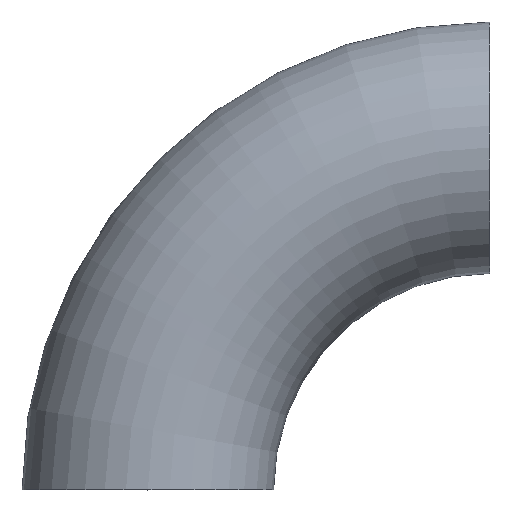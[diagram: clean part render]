
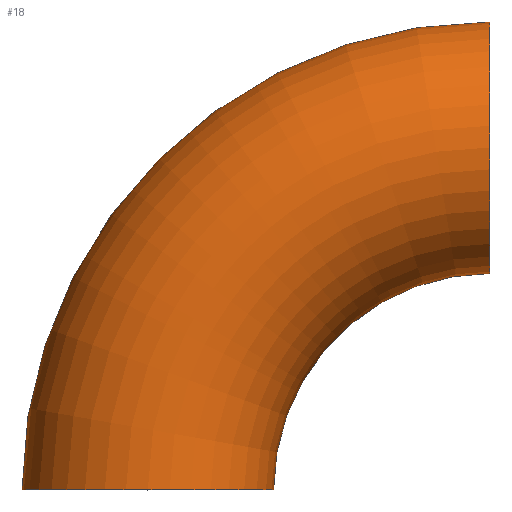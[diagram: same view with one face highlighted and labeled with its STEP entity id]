
A CAD part, top view. The second image highlights one B-rep face of the part: STEP entity #18.
In plain terms, the highlighted toroidal (fillet/blend) face has major radius 190 mm and minor radius 69.85 mm.
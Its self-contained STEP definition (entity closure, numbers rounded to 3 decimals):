
#5 = CARTESIAN_POINT ( 'NONE',  ( 190., 120.15, 0. ) ) ;
#15 = EDGE_CURVE ( 'NONE', #201, #93, #232, .T. ) ;
#18 = ADVANCED_FACE ( 'NONE', ( #114 ), #26, .T. ) ;
#20 = DIRECTION ( 'NONE',  ( 0., 0., 1. ) ) ;
#23 = DIRECTION ( 'NONE',  ( 0., 0., 1. ) ) ;
#25 = CARTESIAN_POINT ( 'NONE',  ( 69.85, 0., 0. ) ) ;
#26 = TOROIDAL_SURFACE ( 'NONE', #99, 190., 69.85 ) ;
#35 = AXIS2_PLACEMENT_3D ( 'NONE', #243, #23, #45 ) ;
#44 = CARTESIAN_POINT ( 'NONE',  ( 190., 190., 0. ) ) ;
#45 = DIRECTION ( 'NONE',  ( 1., 0., 0. ) ) ;
#57 = CIRCLE ( 'NONE', #219, 69.85 ) ;
#58 = EDGE_LOOP ( 'NONE', ( #223, #133, #157, #87 ) ) ;
#66 = CARTESIAN_POINT ( 'NONE',  ( 190., 0., 0. ) ) ;
#76 = EDGE_CURVE ( 'NONE', #130, #93, #80, .T. ) ;
#77 = DIRECTION ( 'NONE',  ( 0., 1., 0. ) ) ;
#79 = CARTESIAN_POINT ( 'NONE',  ( -69.85, 0., 0. ) ) ;
#80 = CIRCLE ( 'NONE', #162, 120.15 ) ;
#87 = ORIENTED_EDGE ( 'NONE', *, *, #76, .F. ) ;
#93 = VERTEX_POINT ( 'NONE', #25 ) ;
#96 = CARTESIAN_POINT ( 'NONE',  ( 190., 0., 0. ) ) ;
#98 = DIRECTION ( 'NONE',  ( 1., 0., 0. ) ) ;
#99 = AXIS2_PLACEMENT_3D ( 'NONE', #96, #173, #98 ) ;
#114 = FACE_OUTER_BOUND ( 'NONE', #58, .T. ) ;
#115 = EDGE_CURVE ( 'NONE', #125, #130, #57, .T. ) ;
#116 = DIRECTION ( 'NONE',  ( 0., 0., 1. ) ) ;
#125 = VERTEX_POINT ( 'NONE', #196 ) ;
#130 = VERTEX_POINT ( 'NONE', #5 ) ;
#132 = AXIS2_PLACEMENT_3D ( 'NONE', #231, #77, #116 ) ;
#133 = ORIENTED_EDGE ( 'NONE', *, *, #156, .T. ) ;
#144 = DIRECTION ( 'NONE',  ( 1., 0., 0. ) ) ;
#156 = EDGE_CURVE ( 'NONE', #125, #201, #220, .T. ) ;
#157 = ORIENTED_EDGE ( 'NONE', *, *, #15, .T. ) ;
#162 = AXIS2_PLACEMENT_3D ( 'NONE', #66, #20, #144 ) ;
#173 = DIRECTION ( 'NONE',  ( 0., 0., 1. ) ) ;
#179 = DIRECTION ( 'NONE',  ( 1., 0., 0. ) ) ;
#196 = CARTESIAN_POINT ( 'NONE',  ( 190., 259.85, 0. ) ) ;
#201 = VERTEX_POINT ( 'NONE', #79 ) ;
#219 = AXIS2_PLACEMENT_3D ( 'NONE', #44, #179, #235 ) ;
#220 = CIRCLE ( 'NONE', #35, 259.85 ) ;
#223 = ORIENTED_EDGE ( 'NONE', *, *, #115, .F. ) ;
#231 = CARTESIAN_POINT ( 'NONE',  ( 0., 0., 0. ) ) ;
#232 = CIRCLE ( 'NONE', #132, 69.85 ) ;
#235 = DIRECTION ( 'NONE',  ( 0., 0., 1. ) ) ;
#243 = CARTESIAN_POINT ( 'NONE',  ( 190., 0., 0. ) ) ;
